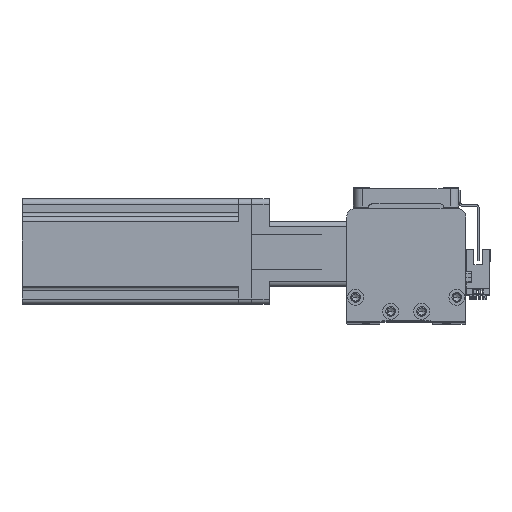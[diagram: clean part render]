
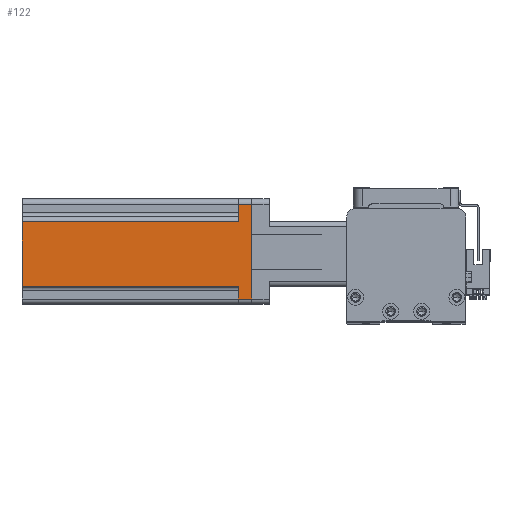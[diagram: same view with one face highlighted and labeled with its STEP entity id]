
A CAD part, top view. The second image highlights one B-rep face of the part: STEP entity #122.
In plain terms, the highlighted planar face has unit normal (0, 0, 1) as drawn and (-1, 0, 0) by its records, which use the part's own axes.
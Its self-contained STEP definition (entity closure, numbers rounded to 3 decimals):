
#122 = ADVANCED_FACE ( 'NONE', ( #4749 ), #19495, .F. ) ;
#292 = LINE ( 'NONE', #34228, #17155 ) ;
#935 = ORIENTED_EDGE ( 'NONE', *, *, #10404, .F. ) ;
#1846 = ORIENTED_EDGE ( 'NONE', *, *, #4073, .F. ) ;
#1938 = CARTESIAN_POINT ( 'NONE',  ( -30., -30., 7.5 ) ) ;
#2330 = VERTEX_POINT ( 'NONE', #14005 ) ;
#3223 = VERTEX_POINT ( 'NONE', #16036 ) ;
#3846 = DIRECTION ( 'NONE',  ( 0., 0., 1. ) ) ;
#4055 = DIRECTION ( 'NONE',  ( 0., 0., 1. ) ) ;
#4073 = EDGE_CURVE ( 'NONE', #33316, #3223, #40886, .T. ) ;
#4749 = FACE_OUTER_BOUND ( 'NONE', #34040, .T. ) ;
#4958 = CARTESIAN_POINT ( 'NONE',  ( -30., 20., 7.5 ) ) ;
#5239 = ORIENTED_EDGE ( 'NONE', *, *, #15195, .T. ) ;
#5559 = VECTOR ( 'NONE', #27079, 1000. ) ;
#5675 = VERTEX_POINT ( 'NONE', #38544 ) ;
#6163 = DIRECTION ( 'NONE',  ( 0., -1., 0. ) ) ;
#6602 = VECTOR ( 'NONE', #40417, 1000. ) ;
#6995 = CARTESIAN_POINT ( 'NONE',  ( -30., 20., 7.5 ) ) ;
#9584 = DIRECTION ( 'NONE',  ( 0., 1., 0. ) ) ;
#10132 = EDGE_CURVE ( 'NONE', #33316, #5675, #22616, .T. ) ;
#10404 = EDGE_CURVE ( 'NONE', #2330, #5675, #292, .T. ) ;
#11368 = VERTEX_POINT ( 'NONE', #21400 ) ;
#12381 = VECTOR ( 'NONE', #3846, 1000. ) ;
#12559 = CARTESIAN_POINT ( 'NONE',  ( -30., -30., 0. ) ) ;
#12986 = LINE ( 'NONE', #4958, #5559 ) ;
#13031 = VECTOR ( 'NONE', #9584, 1000. ) ;
#13477 = VECTOR ( 'NONE', #6163, 1000. ) ;
#13803 = VERTEX_POINT ( 'NONE', #26652 ) ;
#14005 = CARTESIAN_POINT ( 'NONE',  ( -30., 20., 130.7 ) ) ;
#14514 = ORIENTED_EDGE ( 'NONE', *, *, #26672, .T. ) ;
#15061 = CARTESIAN_POINT ( 'NONE',  ( -30., 27., 130.7 ) ) ;
#15195 = EDGE_CURVE ( 'NONE', #21459, #13803, #23433, .T. ) ;
#15608 = VECTOR ( 'NONE', #27253, 1000. ) ;
#15749 = ORIENTED_EDGE ( 'NONE', *, *, #36504, .F. ) ;
#16036 = CARTESIAN_POINT ( 'NONE',  ( -30., -27., 7.5 ) ) ;
#16431 = CARTESIAN_POINT ( 'NONE',  ( -30., -27., 130.7 ) ) ;
#16447 = DIRECTION ( 'NONE',  ( 1., 0., 0. ) ) ;
#17155 = VECTOR ( 'NONE', #40599, 1000. ) ;
#19495 = PLANE ( 'NONE',  #29879 ) ;
#20768 = LINE ( 'NONE', #16431, #12381 ) ;
#21400 = CARTESIAN_POINT ( 'NONE',  ( -30., -27., 0. ) ) ;
#21459 = VERTEX_POINT ( 'NONE', #40076 ) ;
#21638 = EDGE_CURVE ( 'NONE', #28429, #21459, #38294, .T. ) ;
#22616 = LINE ( 'NONE', #26174, #38497 ) ;
#23333 = ORIENTED_EDGE ( 'NONE', *, *, #37866, .T. ) ;
#23433 = LINE ( 'NONE', #15061, #6602 ) ;
#24349 = ORIENTED_EDGE ( 'NONE', *, *, #10132, .T. ) ;
#26174 = CARTESIAN_POINT ( 'NONE',  ( -30., -17., 130.7 ) ) ;
#26652 = CARTESIAN_POINT ( 'NONE',  ( -30., 27., 0. ) ) ;
#26672 = EDGE_CURVE ( 'NONE', #13803, #11368, #31290, .T. ) ;
#27079 = DIRECTION ( 'NONE',  ( 0., 0., 1. ) ) ;
#27253 = DIRECTION ( 'NONE',  ( 0., -1., 0. ) ) ;
#28429 = VERTEX_POINT ( 'NONE', #6995 ) ;
#29482 = ORIENTED_EDGE ( 'NONE', *, *, #21638, .T. ) ;
#29879 = AXIS2_PLACEMENT_3D ( 'NONE', #35453, #16447, #38620 ) ;
#31290 = LINE ( 'NONE', #12559, #13477 ) ;
#33316 = VERTEX_POINT ( 'NONE', #35610 ) ;
#34040 = EDGE_LOOP ( 'NONE', ( #1846, #24349, #935, #15749, #29482, #5239, #14514, #23333 ) ) ;
#34228 = CARTESIAN_POINT ( 'NONE',  ( -30., -30., 130.7 ) ) ;
#34806 = CARTESIAN_POINT ( 'NONE',  ( -30., 30., 7.5 ) ) ;
#35453 = CARTESIAN_POINT ( 'NONE',  ( -30., -30., 130.7 ) ) ;
#35610 = CARTESIAN_POINT ( 'NONE',  ( -30., -17., 7.5 ) ) ;
#36504 = EDGE_CURVE ( 'NONE', #28429, #2330, #12986, .T. ) ;
#37866 = EDGE_CURVE ( 'NONE', #11368, #3223, #20768, .T. ) ;
#38294 = LINE ( 'NONE', #34806, #13031 ) ;
#38497 = VECTOR ( 'NONE', #4055, 1000. ) ;
#38544 = CARTESIAN_POINT ( 'NONE',  ( -30., -17., 130.7 ) ) ;
#38620 = DIRECTION ( 'NONE',  ( 0., 0., -1. ) ) ;
#40076 = CARTESIAN_POINT ( 'NONE',  ( -30., 27., 7.5 ) ) ;
#40417 = DIRECTION ( 'NONE',  ( 0., 0., -1. ) ) ;
#40599 = DIRECTION ( 'NONE',  ( 0., -1., 0. ) ) ;
#40886 = LINE ( 'NONE', #1938, #15608 ) ;
